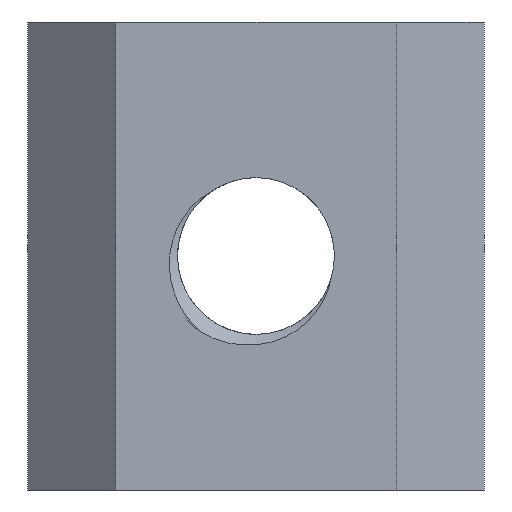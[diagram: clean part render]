
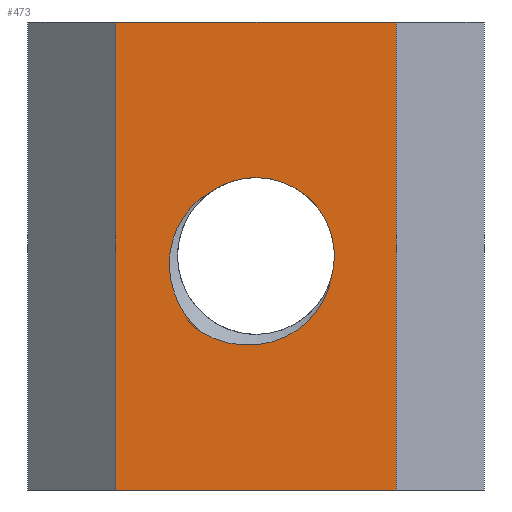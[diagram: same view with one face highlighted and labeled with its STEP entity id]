
A CAD part, front view. The second image highlights one B-rep face of the part: STEP entity #473.
In plain terms, the highlighted planar face has unit normal (0, -1, 0).
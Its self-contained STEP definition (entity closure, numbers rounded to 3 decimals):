
#13 = CARTESIAN_POINT ( 'NONE',  ( 2.825, 0., -2.038 ) ) ;
#21 = EDGE_CURVE ( 'NONE', #505, #2012, #1994, .T. ) ;
#32 = EDGE_CURVE ( 'NONE', #1270, #1075, #410, .T. ) ;
#88 = CARTESIAN_POINT ( 'NONE',  ( 0., 0., 0. ) ) ;
#101 = EDGE_LOOP ( 'NONE', ( #1803, #413, #1715, #1372 ) ) ;
#111 = CARTESIAN_POINT ( 'NONE',  ( -2.776, 0., -2.843 ) ) ;
#124 = CARTESIAN_POINT ( 'NONE',  ( 0.784, 0., -3.652 ) ) ;
#163 = CARTESIAN_POINT ( 'NONE',  ( -3.621, 0., 0.495 ) ) ;
#165 = ORIENTED_EDGE ( 'NONE', *, *, #2220, .T. ) ;
#188 = CARTESIAN_POINT ( 'NONE',  ( 6., 0., 10. ) ) ;
#238 = CARTESIAN_POINT ( 'NONE',  ( 2.667, 0., -2.285 ) ) ;
#332 = CARTESIAN_POINT ( 'NONE',  ( -3.132, 0., -2.362 ) ) ;
#344 = CARTESIAN_POINT ( 'NONE',  ( 0.501, 0., -3.729 ) ) ;
#387 = CARTESIAN_POINT ( 'NONE',  ( -3.437, 0., 1.062 ) ) ;
#410 = LINE ( 'NONE', #188, #1822 ) ;
#411 = VECTOR ( 'NONE', #1650, 1000. ) ;
#413 = ORIENTED_EDGE ( 'NONE', *, *, #1381, .F. ) ;
#456 = AXIS2_PLACEMENT_3D ( 'NONE', #88, #2108, #1872 ) ;
#459 = CARTESIAN_POINT ( 'NONE',  ( 2.381, 0., -2.625 ) ) ;
#473 = ADVANCED_FACE ( 'NONE', ( #1783, #2080 ), #1464, .F. ) ;
#505 = VERTEX_POINT ( 'NONE', #556 ) ;
#528 = CARTESIAN_POINT ( 'NONE',  ( -6., 0., -10. ) ) ;
#556 = CARTESIAN_POINT ( 'NONE',  ( -1.86, 0., 2.786 ) ) ;
#559 = CARTESIAN_POINT ( 'NONE',  ( -3.279, 0., -2.105 ) ) ;
#571 = CARTESIAN_POINT ( 'NONE',  ( -0.088, 0., -3.814 ) ) ;
#595 = EDGE_CURVE ( 'NONE', #1984, #1270, #1890, .T. ) ;
#602 = VECTOR ( 'NONE', #669, 1000. ) ;
#608 = CARTESIAN_POINT ( 'NONE',  ( -3.31, 0., 1.332 ) ) ;
#661 = CARTESIAN_POINT ( 'NONE',  ( 3.218, 0., -0.93 ) ) ;
#669 = DIRECTION ( 'NONE',  ( 1., 0., 0. ) ) ;
#680 = CARTESIAN_POINT ( 'NONE',  ( 2.278, 0., -2.733 ) ) ;
#694 = B_SPLINE_CURVE_WITH_KNOTS ( 'NONE', 3,
 ( #1965, #1724, #1481, #1248, #1012, #783, #571, #344, #124, #2145, #1365, #1131, #901, #680, #459, #238, #13, #2025, #1789, #1546, #1309, #1079 ),
 .UNSPECIFIED., .F., .F.,
 ( 4, 2, 2, 2, 2, 2, 2, 2, 2, 2, 4 ),
 ( 0., 0.001, 0.002, 0.003, 0.004, 0.004, 0.005, 0.005, 0.006, 0.007, 0.007 ),
 .UNSPECIFIED. ) ;
#717 = CARTESIAN_POINT ( 'NONE',  ( -6., 0., 10. ) ) ;
#727 = CARTESIAN_POINT ( 'NONE',  ( 6., 0., -10. ) ) ;
#760 = CARTESIAN_POINT ( 'NONE',  ( 6., 0., 10. ) ) ;
#765 = EDGE_LOOP ( 'NONE', ( #165, #2138, #1037, #1498 ) ) ;
#770 = DIRECTION ( 'NONE',  ( 0., 0., 1. ) ) ;
#773 = CARTESIAN_POINT ( 'NONE',  ( -3.512, 0., -1.561 ) ) ;
#783 = CARTESIAN_POINT ( 'NONE',  ( -0.383, 0., -3.82 ) ) ;
#825 = CARTESIAN_POINT ( 'NONE',  ( -2.992, 0., 1.833 ) ) ;
#852 = DIRECTION ( 'NONE',  ( 0., 0., 1. ) ) ;
#891 = CARTESIAN_POINT ( 'NONE',  ( 6., 0., 10. ) ) ;
#901 = CARTESIAN_POINT ( 'NONE',  ( 2.062, 0., -2.934 ) ) ;
#997 = DIRECTION ( 'NONE',  ( 0., 1., 0. ) ) ;
#1000 = CARTESIAN_POINT ( 'NONE',  ( -3.597, 0., -1.271 ) ) ;
#1012 = CARTESIAN_POINT ( 'NONE',  ( -0.968, 0., -3.77 ) ) ;
#1037 = ORIENTED_EDGE ( 'NONE', *, *, #595, .F. ) ;
#1058 = CARTESIAN_POINT ( 'NONE',  ( -2.8, 0., 2.066 ) ) ;
#1075 = VERTEX_POINT ( 'NONE', #727 ) ;
#1079 = CARTESIAN_POINT ( 'NONE',  ( 3.218, 0., -0.93 ) ) ;
#1084 = DIRECTION ( 'NONE',  ( 0., 1., 0. ) ) ;
#1131 = CARTESIAN_POINT ( 'NONE',  ( 1.948, 0., -3.027 ) ) ;
#1150 = DIRECTION ( 'NONE',  ( 0., 0., -1. ) ) ;
#1180 = B_SPLINE_CURVE_WITH_KNOTS ( 'NONE', 3,
 ( #2240, #2005, #1769, #1525, #1289, #1058, #825, #608, #387, #163, #2186, #1951, #1711, #1468, #1236, #1000, #773, #559, #332, #111, #2133, #1893 ),
 .UNSPECIFIED., .F., .F.,
 ( 4, 2, 2, 2, 2, 2, 2, 2, 2, 2, 4 ),
 ( 0.004, 0.004, 0.005, 0.006, 0.006, 0.007, 0.008, 0.008, 0.009, 0.01, 0.011 ),
 .UNSPECIFIED. ) ;
#1199 = VERTEX_POINT ( 'NONE', #528 ) ;
#1215 = EDGE_CURVE ( 'NONE', #1984, #1199, #1623, .T. ) ;
#1233 = CARTESIAN_POINT ( 'NONE',  ( 6., 0., 10. ) ) ;
#1236 = CARTESIAN_POINT ( 'NONE',  ( -3.672, 0., -0.834 ) ) ;
#1248 = CARTESIAN_POINT ( 'NONE',  ( -1.263, 0., -3.71 ) ) ;
#1270 = VERTEX_POINT ( 'NONE', #760 ) ;
#1289 = CARTESIAN_POINT ( 'NONE',  ( -2.476, 0., 2.369 ) ) ;
#1309 = CARTESIAN_POINT ( 'NONE',  ( 3.193, 0., -1.074 ) ) ;
#1317 = CARTESIAN_POINT ( 'NONE',  ( 0., 0., 0. ) ) ;
#1350 = VERTEX_POINT ( 'NONE', #661 ) ;
#1365 = CARTESIAN_POINT ( 'NONE',  ( 1.592, 0., -3.286 ) ) ;
#1372 = ORIENTED_EDGE ( 'NONE', *, *, #1851, .T. ) ;
#1381 = EDGE_CURVE ( 'NONE', #505, #2068, #1180, .T. ) ;
#1387 = CARTESIAN_POINT ( 'NONE',  ( -6., 0., 10. ) ) ;
#1464 = PLANE ( 'NONE',  #1964 ) ;
#1468 = CARTESIAN_POINT ( 'NONE',  ( -3.689, 0., -0.687 ) ) ;
#1481 = CARTESIAN_POINT ( 'NONE',  ( -1.822, 0., -3.529 ) ) ;
#1498 = ORIENTED_EDGE ( 'NONE', *, *, #1215, .T. ) ;
#1500 = EDGE_CURVE ( 'NONE', #2068, #1350, #694, .T. ) ;
#1521 = AXIS2_PLACEMENT_3D ( 'NONE', #1317, #1084, #852 ) ;
#1525 = CARTESIAN_POINT ( 'NONE',  ( -2.362, 0., 2.464 ) ) ;
#1546 = CARTESIAN_POINT ( 'NONE',  ( 3.157, 0., -1.217 ) ) ;
#1570 = CARTESIAN_POINT ( 'NONE',  ( -2.345, 0., -3.255 ) ) ;
#1623 = LINE ( 'NONE', #1387, #2042 ) ;
#1636 = CIRCLE ( 'NONE', #456, 3.35 ) ;
#1650 = DIRECTION ( 'NONE',  ( 1., 0., 0. ) ) ;
#1711 = CARTESIAN_POINT ( 'NONE',  ( -3.704, 0., -0.391 ) ) ;
#1715 = ORIENTED_EDGE ( 'NONE', *, *, #21, .T. ) ;
#1724 = CARTESIAN_POINT ( 'NONE',  ( -2.09, 0., -3.408 ) ) ;
#1769 = CARTESIAN_POINT ( 'NONE',  ( -2.12, 0., 2.638 ) ) ;
#1783 = FACE_OUTER_BOUND ( 'NONE', #765, .T. ) ;
#1789 = CARTESIAN_POINT ( 'NONE',  ( 3.068, 0., -1.498 ) ) ;
#1803 = ORIENTED_EDGE ( 'NONE', *, *, #1500, .F. ) ;
#1822 = VECTOR ( 'NONE', #2215, 1000. ) ;
#1851 = EDGE_CURVE ( 'NONE', #2012, #1350, #1636, .T. ) ;
#1872 = DIRECTION ( 'NONE',  ( 0., 0., 1. ) ) ;
#1890 = LINE ( 'NONE', #891, #602 ) ;
#1891 = CARTESIAN_POINT ( 'NONE',  ( 6., 0., -10. ) ) ;
#1893 = CARTESIAN_POINT ( 'NONE',  ( -2.345, 0., -3.255 ) ) ;
#1951 = CARTESIAN_POINT ( 'NONE',  ( -3.704, 0., -0.241 ) ) ;
#1964 = AXIS2_PLACEMENT_3D ( 'NONE', #1233, #997, #770 ) ;
#1965 = CARTESIAN_POINT ( 'NONE',  ( -2.345, 0., -3.255 ) ) ;
#1984 = VERTEX_POINT ( 'NONE', #717 ) ;
#1994 = CIRCLE ( 'NONE', #1521, 3.35 ) ;
#2005 = CARTESIAN_POINT ( 'NONE',  ( -1.992, 0., 2.717 ) ) ;
#2012 = VERTEX_POINT ( 'NONE', #2065 ) ;
#2025 = CARTESIAN_POINT ( 'NONE',  ( 3.013, 0., -1.638 ) ) ;
#2042 = VECTOR ( 'NONE', #1150, 1000. ) ;
#2065 = CARTESIAN_POINT ( 'NONE',  ( 0., 0., 3.35 ) ) ;
#2068 = VERTEX_POINT ( 'NONE', #1570 ) ;
#2080 = FACE_BOUND ( 'NONE', #101, .T. ) ;
#2108 = DIRECTION ( 'NONE',  ( 0., 1., 0. ) ) ;
#2130 = LINE ( 'NONE', #1891, #411 ) ;
#2133 = CARTESIAN_POINT ( 'NONE',  ( -2.572, 0., -3.06 ) ) ;
#2138 = ORIENTED_EDGE ( 'NONE', *, *, #32, .F. ) ;
#2145 = CARTESIAN_POINT ( 'NONE',  ( 1.329, 0., -3.432 ) ) ;
#2186 = CARTESIAN_POINT ( 'NONE',  ( -3.675, 0., 0.204 ) ) ;
#2215 = DIRECTION ( 'NONE',  ( 0., 0., -1. ) ) ;
#2220 = EDGE_CURVE ( 'NONE', #1199, #1075, #2130, .T. ) ;
#2240 = CARTESIAN_POINT ( 'NONE',  ( -1.86, 0., 2.786 ) ) ;
